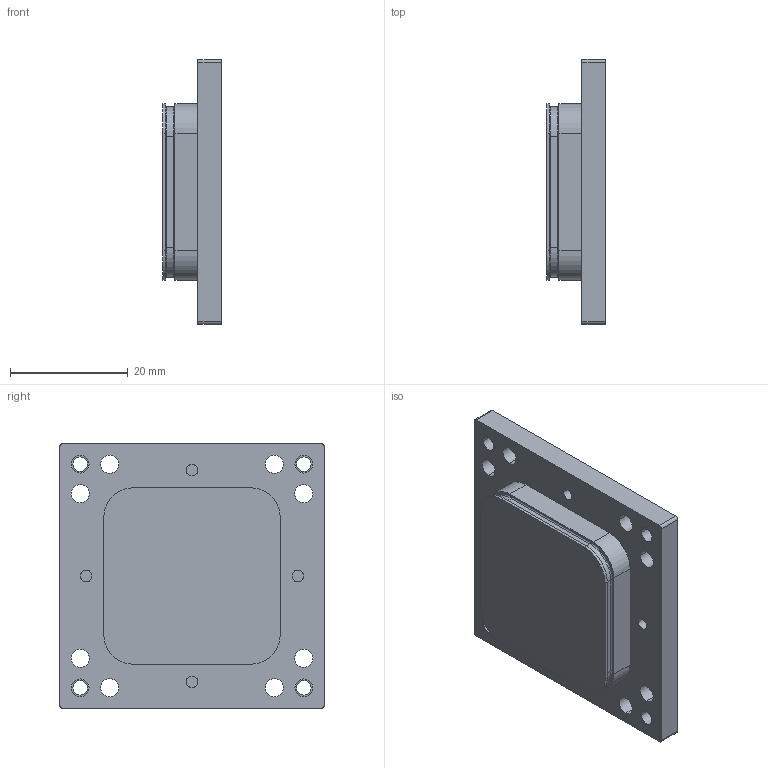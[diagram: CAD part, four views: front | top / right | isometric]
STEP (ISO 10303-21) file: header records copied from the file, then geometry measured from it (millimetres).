
FILE_DESCRIPTION(/* description */ ('VariCAD 2017-2.10 AP-214'),/* implementation_level */ '2;1');
FILE_NAME(/* name */ '06_cap.stp',/* time_stamp */ '2023-12-21T11:01:55+02:00',/* author */ (''),/* organization */ (''),/* preprocessor_version */ 'VariCAD 2017-2.10',/* originating_system */ 'VariCAD 2017-2.10; kernel version (20130303)',/* authorisation */ '');
FILE_SCHEMA(('AUTOMOTIVE_DESIGN'));
Length unit declared in the file: millimetre
Products named in the file (2): 06_cap
Assembly tree (1 placements, depth 2):
  06_cap
    (unnamed)
Bounding box: 10 x 45 x 45 mm (x, y, z)
Volume: 12921.5 mm3; surface area: 5874.4 mm2
Topology: 1 solids, 1 shells, 97 faces, 256 edges, 176 vertices
Faces by surface type: cylinder 56, plane 33, torus 8
Entity records: 3791 total; most frequent: DIRECTION 602, CARTESIAN_POINT 533, ORIENTED_EDGE 512, EDGE_CURVE 256, AXIS2_PLACEMENT_3D 245, VERTEX_POINT 176, CIRCLE 144, EDGE_LOOP 136
